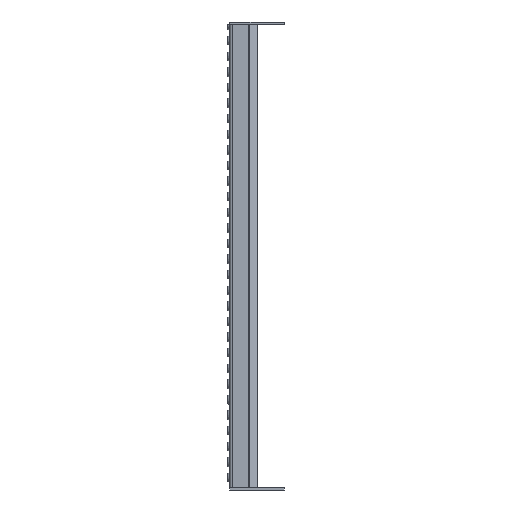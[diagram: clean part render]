
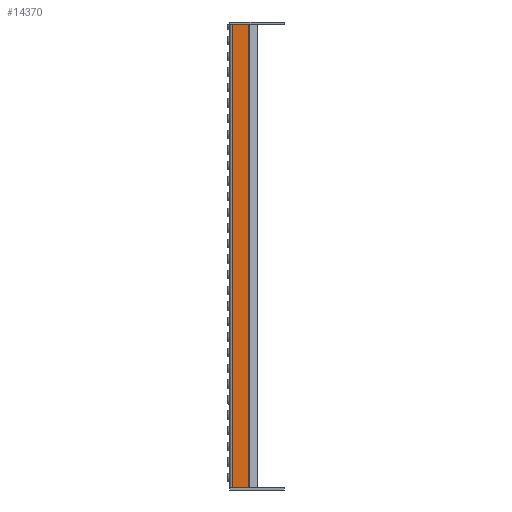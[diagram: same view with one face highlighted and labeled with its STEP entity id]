
A CAD part, left-side view. The second image highlights one B-rep face of the part: STEP entity #14370.
In plain terms, the highlighted planar face has unit normal (-1, 0, 0).
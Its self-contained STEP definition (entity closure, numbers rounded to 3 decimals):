
#1725=FACE_OUTER_BOUND('',#2720,.T.);
#2720=EDGE_LOOP('',(#11837,#11838,#11839,#11840));
#3779=LINE('',#26075,#5307);
#3790=LINE('',#26105,#5318);
#3800=LINE('',#26128,#5328);
#3807=LINE('',#26143,#5335);
#5307=VECTOR('',#18563,10.);
#5318=VECTOR('',#18588,10.);
#5328=VECTOR('',#18610,10.);
#5335=VECTOR('',#18629,10.);
#6868=VERTEX_POINT('',#26072);
#6869=VERTEX_POINT('',#26074);
#6881=VERTEX_POINT('',#26104);
#6888=VERTEX_POINT('',#26127);
#8581=EDGE_CURVE('',#6869,#6868,#3779,.T.);
#8596=EDGE_CURVE('',#6868,#6881,#3790,.T.);
#8608=EDGE_CURVE('',#6888,#6869,#3800,.T.);
#8616=EDGE_CURVE('',#6881,#6888,#3807,.T.);
#11837=ORIENTED_EDGE('',*,*,#8596,.T.);
#11838=ORIENTED_EDGE('',*,*,#8616,.T.);
#11839=ORIENTED_EDGE('',*,*,#8608,.T.);
#11840=ORIENTED_EDGE('',*,*,#8581,.T.);
#13473=PLANE('',#15683);
#14370=ADVANCED_FACE('',(#1725),#13473,.T.);
#15683=AXIS2_PLACEMENT_3D('',#26144,#18630,#18631);
#18563=DIRECTION('',(0.,1.,0.));
#18588=DIRECTION('',(0.,0.,-1.));
#18610=DIRECTION('',(0.,0.,1.));
#18629=DIRECTION('',(0.,-1.,0.));
#18630=DIRECTION('center_axis',(-1.,0.,0.));
#18631=DIRECTION('ref_axis',(0.,0.,1.));
#26072=CARTESIAN_POINT('',(0.,-3.25,594.));
#26074=CARTESIAN_POINT('',(0.,-24.427,594.));
#26075=CARTESIAN_POINT('',(0.,0.,594.));
#26104=CARTESIAN_POINT('',(0.,-3.25,0.));
#26105=CARTESIAN_POINT('',(0.,-3.25,0.));
#26127=CARTESIAN_POINT('',(0.,-24.427,0.));
#26128=CARTESIAN_POINT('',(0.,-24.427,148.5));
#26143=CARTESIAN_POINT('',(0.,0.,0.));
#26144=CARTESIAN_POINT('Origin',(0.,-25.,0.));
